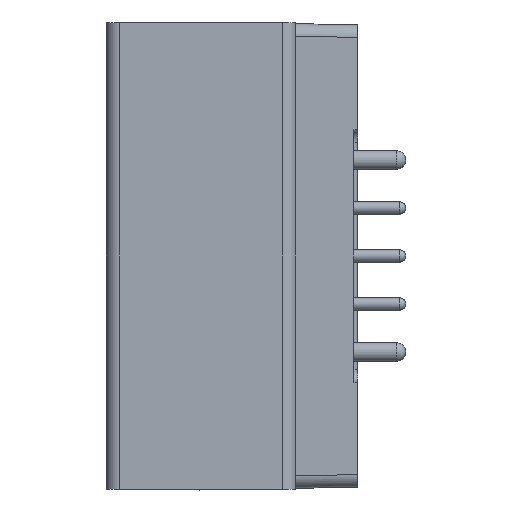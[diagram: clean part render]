
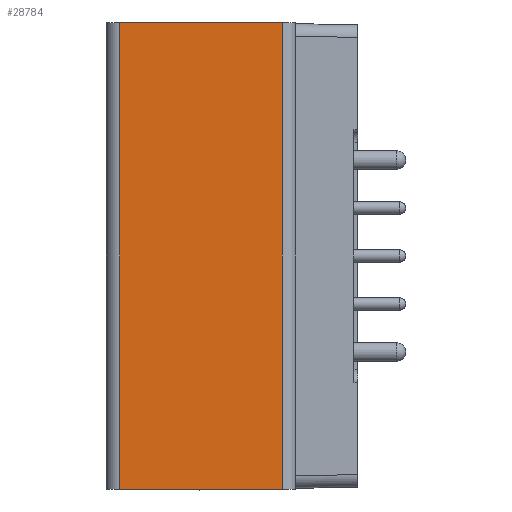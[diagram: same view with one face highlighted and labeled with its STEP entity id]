
A CAD part, left-side view. The second image highlights one B-rep face of the part: STEP entity #28784.
In plain terms, the highlighted planar face has unit normal (-1, 0, 0).
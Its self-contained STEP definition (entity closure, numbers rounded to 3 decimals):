
#1146 = CARTESIAN_POINT ( 'NONE',  ( -31.6, -7.55, 18.5 ) ) ;
#2127 = EDGE_CURVE ( 'NONE', #59960, #25671, #53506, .T. ) ;
#2944 = EDGE_LOOP ( 'NONE', ( #14569, #64762, #35298, #50027 ) ) ;
#6186 = VECTOR ( 'NONE', #7992, 1000. ) ;
#7334 = CARTESIAN_POINT ( 'NONE',  ( -31.6, -7.55, 18.5 ) ) ;
#7992 = DIRECTION ( 'NONE',  ( 0., -1., 0. ) ) ;
#8487 = CARTESIAN_POINT ( 'NONE',  ( -31.6, 5.35, 18.5 ) ) ;
#9074 = VECTOR ( 'NONE', #48483, 1000. ) ;
#9663 = EDGE_CURVE ( 'NONE', #59960, #23712, #59465, .T. ) ;
#12305 = AXIS2_PLACEMENT_3D ( 'NONE', #8487, #19496, #23906 ) ;
#13028 = CARTESIAN_POINT ( 'NONE',  ( -31.6, 5.35, -18.5 ) ) ;
#13536 = FACE_OUTER_BOUND ( 'NONE', #2944, .T. ) ;
#14569 = ORIENTED_EDGE ( 'NONE', *, *, #37107, .T. ) ;
#19496 = DIRECTION ( 'NONE',  ( 1., 0., 0. ) ) ;
#20845 = CARTESIAN_POINT ( 'NONE',  ( -31.6, -7.55, -18.5 ) ) ;
#21542 = LINE ( 'NONE', #1146, #48147 ) ;
#23712 = VERTEX_POINT ( 'NONE', #46776 ) ;
#23906 = DIRECTION ( 'NONE',  ( 0., 0., -1. ) ) ;
#25671 = VERTEX_POINT ( 'NONE', #7334 ) ;
#26636 = CARTESIAN_POINT ( 'NONE',  ( -31.6, 5.35, 18.5 ) ) ;
#28784 = ADVANCED_FACE ( 'NONE', ( #13536 ), #34009, .F. ) ;
#34009 = PLANE ( 'NONE',  #12305 ) ;
#34394 = VECTOR ( 'NONE', #60111, 1000. ) ;
#35298 = ORIENTED_EDGE ( 'NONE', *, *, #2127, .F. ) ;
#36363 = DIRECTION ( 'NONE',  ( 0., 0., -1. ) ) ;
#37107 = EDGE_CURVE ( 'NONE', #23712, #61342, #38554, .T. ) ;
#38554 = LINE ( 'NONE', #13028, #6186 ) ;
#38667 = CARTESIAN_POINT ( 'NONE',  ( -31.6, 5.35, 18.5 ) ) ;
#46776 = CARTESIAN_POINT ( 'NONE',  ( -31.6, 5.35, -18.5 ) ) ;
#48147 = VECTOR ( 'NONE', #36363, 1000. ) ;
#48483 = DIRECTION ( 'NONE',  ( 0., -1., 0. ) ) ;
#49682 = CARTESIAN_POINT ( 'NONE',  ( -31.6, 5.35, 18.5 ) ) ;
#50027 = ORIENTED_EDGE ( 'NONE', *, *, #9663, .T. ) ;
#53506 = LINE ( 'NONE', #26636, #9074 ) ;
#56115 = EDGE_CURVE ( 'NONE', #25671, #61342, #21542, .T. ) ;
#59465 = LINE ( 'NONE', #49682, #34394 ) ;
#59960 = VERTEX_POINT ( 'NONE', #38667 ) ;
#60111 = DIRECTION ( 'NONE',  ( 0., 0., -1. ) ) ;
#61342 = VERTEX_POINT ( 'NONE', #20845 ) ;
#64762 = ORIENTED_EDGE ( 'NONE', *, *, #56115, .F. ) ;
